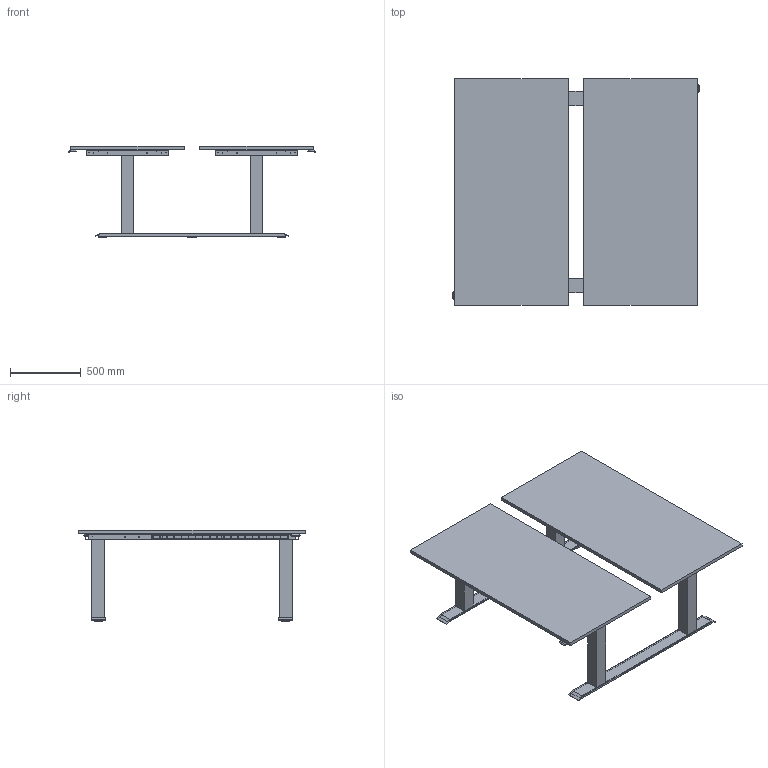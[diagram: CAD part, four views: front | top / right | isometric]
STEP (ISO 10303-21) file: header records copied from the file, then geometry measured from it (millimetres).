
FILE_DESCRIPTION( ( '' ), '1' );
FILE_NAME( 'C:/Users/dhek/Desktop/New folder/C_6/LegaDrive/9243969.stp', '2018-02-28T05:12:44', ( '' ), ( '' ), ' ', ' ', ' ' );
FILE_SCHEMA( ( 'CONFIG_CONTROL_DESIGN' ) );
Length unit declared in the file: millimetre
Products named in the file (20): 1; 2; 3; 4; 5; 6; 7; 8; 9; 10; 11; 12; 13; 14; 15; 16; 17; 18; 19; 20
Bounding box: 1741.37 x 1600 x 645.5 mm (x, y, z)
Volume: 92905706.6 mm3; surface area: 9821571.6 mm2
Topology: 20 solids, 20 shells, 994 faces, 2778 edges, 1852 vertices
Faces by surface type: cylinder 656, plane 338
Entity records: 34694 total; most frequent: DIRECTION 6130, CARTESIAN_POINT 5644, ORIENTED_EDGE 5556, EDGE_CURVE 2778, AXIS2_PLACEMENT_3D 2338, VERTEX_POINT 1852, EDGE_LOOP 1646, LINE 1454
